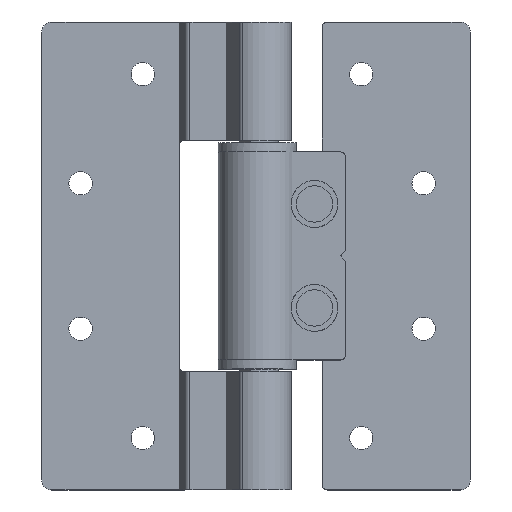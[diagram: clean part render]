
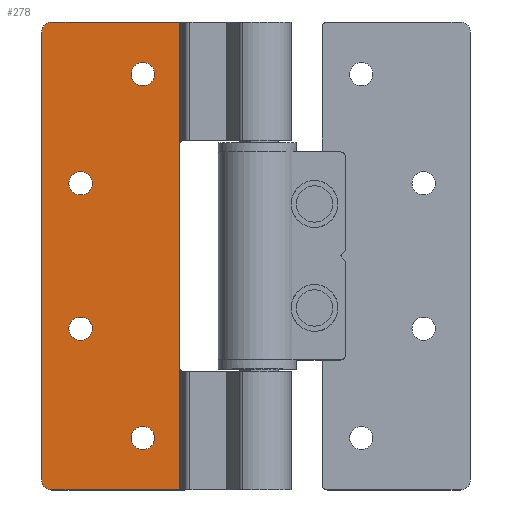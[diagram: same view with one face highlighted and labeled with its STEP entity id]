
A CAD part, top view. The second image highlights one B-rep face of the part: STEP entity #278.
In plain terms, the highlighted planar face has unit normal (0, 0, 1).
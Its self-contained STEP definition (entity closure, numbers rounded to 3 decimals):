
#278 = ADVANCED_FACE( '', ( #553, #554, #555, #556, #557 ), #558, .F. );
#553 = FACE_BOUND( '', #865, .T. );
#554 = FACE_BOUND( '', #866, .T. );
#555 = FACE_BOUND( '', #867, .T. );
#556 = FACE_BOUND( '', #868, .T. );
#557 = FACE_OUTER_BOUND( '', #869, .T. );
#558 = PLANE( '', #870 );
#865 = EDGE_LOOP( '', ( #1876 ) );
#866 = EDGE_LOOP( '', ( #1877 ) );
#867 = EDGE_LOOP( '', ( #1878 ) );
#868 = EDGE_LOOP( '', ( #1879 ) );
#869 = EDGE_LOOP( '', ( #1880, #1881, #1882, #1883, #1884, #1885, #1886, #1887 ) );
#870 = AXIS2_PLACEMENT_3D( '', #1888, #1889, #1890 );
#1876 = ORIENTED_EDGE( '', *, *, #2430, .T. );
#1877 = ORIENTED_EDGE( '', *, *, #2431, .T. );
#1878 = ORIENTED_EDGE( '', *, *, #2432, .T. );
#1879 = ORIENTED_EDGE( '', *, *, #2433, .T. );
#1880 = ORIENTED_EDGE( '', *, *, #2404, .F. );
#1881 = ORIENTED_EDGE( '', *, *, #2402, .T. );
#1882 = ORIENTED_EDGE( '', *, *, #2434, .T. );
#1883 = ORIENTED_EDGE( '', *, *, #2435, .T. );
#1884 = ORIENTED_EDGE( '', *, *, #2428, .T. );
#1885 = ORIENTED_EDGE( '', *, *, #2436, .F. );
#1886 = ORIENTED_EDGE( '', *, *, #2391, .F. );
#1887 = ORIENTED_EDGE( '', *, *, #2437, .F. );
#1888 = CARTESIAN_POINT( '', ( -41.5, 45., -7. ) );
#1889 = DIRECTION( '', ( 0., 0., -1. ) );
#1890 = DIRECTION( '', ( -1., 0., 0. ) );
#2391 = EDGE_CURVE( '', #2968, #2963, #2972, .T. );
#2402 = EDGE_CURVE( '', #2991, #2989, #2992, .F. );
#2404 = EDGE_CURVE( '', #2991, #2994, #2995, .T. );
#2428 = EDGE_CURVE( '', #3014, #3038, #3040, .T. );
#2430 = EDGE_CURVE( '', #3042, #3042, #3043, .T. );
#2431 = EDGE_CURVE( '', #3044, #3044, #3045, .T. );
#2432 = EDGE_CURVE( '', #3046, #3046, #3047, .T. );
#2433 = EDGE_CURVE( '', #3048, #3048, #3049, .T. );
#2434 = EDGE_CURVE( '', #2989, #3050, #3051, .T. );
#2435 = EDGE_CURVE( '', #3050, #3014, #3052, .F. );
#2436 = EDGE_CURVE( '', #2963, #3038, #3053, .T. );
#2437 = EDGE_CURVE( '', #2994, #2968, #3054, .T. );
#2963 = VERTEX_POINT( '', #3816 );
#2968 = VERTEX_POINT( '', #3825 );
#2972 = LINE( '', #3831, #3832 );
#2989 = VERTEX_POINT( '', #3855 );
#2991 = VERTEX_POINT( '', #3858 );
#2992 = CIRCLE( '', #3859, 2. );
#2994 = VERTEX_POINT( '', #3862 );
#2995 = LINE( '', #3863, #3864 );
#3014 = VERTEX_POINT( '', #3889 );
#3038 = VERTEX_POINT( '', #3920 );
#3040 = LINE( '', #3923, #3924 );
#3042 = VERTEX_POINT( '', #3927 );
#3043 = CIRCLE( '', #3928, 2.25 );
#3044 = VERTEX_POINT( '', #3929 );
#3045 = CIRCLE( '', #3930, 2.25 );
#3046 = VERTEX_POINT( '', #3931 );
#3047 = CIRCLE( '', #3932, 2.25 );
#3048 = VERTEX_POINT( '', #3933 );
#3049 = CIRCLE( '', #3934, 2.25 );
#3050 = VERTEX_POINT( '', #3935 );
#3051 = LINE( '', #3936, #3937 );
#3052 = CIRCLE( '', #3938, 2. );
#3053 = LINE( '', #3939, #3940 );
#3054 = LINE( '', #3941, #3942 );
#3816 = CARTESIAN_POINT( '', ( -15., -21.25, -7. ) );
#3825 = CARTESIAN_POINT( '', ( -15., 21.25, -7. ) );
#3831 = CARTESIAN_POINT( '', ( -15., 45., -7. ) );
#3832 = VECTOR( '', #4471, 1000. );
#3855 = CARTESIAN_POINT( '', ( -41.5, 43., -7. ) );
#3858 = CARTESIAN_POINT( '', ( -39.5, 45., -7. ) );
#3859 = AXIS2_PLACEMENT_3D( '', #4488, #4489, #4490 );
#3862 = CARTESIAN_POINT( '', ( -15., 45., -7. ) );
#3863 = CARTESIAN_POINT( '', ( -41.5, 45., -7. ) );
#3864 = VECTOR( '', #4492, 1000. );
#3889 = CARTESIAN_POINT( '', ( -39.5, -45., -7. ) );
#3920 = CARTESIAN_POINT( '', ( -15., -45., -7. ) );
#3923 = CARTESIAN_POINT( '', ( -41.5, -45., -7. ) );
#3924 = VECTOR( '', #4534, 1000. );
#3927 = CARTESIAN_POINT( '', ( -36.25, -14., -7. ) );
#3928 = AXIS2_PLACEMENT_3D( '', #4536, #4537, #4538 );
#3929 = CARTESIAN_POINT( '', ( -36.25, 14., -7. ) );
#3930 = AXIS2_PLACEMENT_3D( '', #4539, #4540, #4541 );
#3931 = CARTESIAN_POINT( '', ( -24.25, -35., -7. ) );
#3932 = AXIS2_PLACEMENT_3D( '', #4542, #4543, #4544 );
#3933 = CARTESIAN_POINT( '', ( -24.25, 35., -7. ) );
#3934 = AXIS2_PLACEMENT_3D( '', #4545, #4546, #4547 );
#3935 = CARTESIAN_POINT( '', ( -41.5, -43., -7. ) );
#3936 = CARTESIAN_POINT( '', ( -41.5, 45., -7. ) );
#3937 = VECTOR( '', #4548, 1000. );
#3938 = AXIS2_PLACEMENT_3D( '', #4549, #4550, #4551 );
#3939 = CARTESIAN_POINT( '', ( -15., 45., -7. ) );
#3940 = VECTOR( '', #4552, 1000. );
#3941 = CARTESIAN_POINT( '', ( -15., 45., -7. ) );
#3942 = VECTOR( '', #4553, 1000. );
#4471 = DIRECTION( '', ( 0., -1., 0. ) );
#4488 = CARTESIAN_POINT( '', ( -39.5, 43., -7. ) );
#4489 = DIRECTION( '', ( 0., 0., -1. ) );
#4490 = DIRECTION( '', ( -1., 0., 0. ) );
#4492 = DIRECTION( '', ( 1., 0., 0. ) );
#4534 = DIRECTION( '', ( 1., 0., 0. ) );
#4536 = CARTESIAN_POINT( '', ( -34., -14., -7. ) );
#4537 = DIRECTION( '', ( 0., 0., -1. ) );
#4538 = DIRECTION( '', ( -1., 0., 0. ) );
#4539 = CARTESIAN_POINT( '', ( -34., 14., -7. ) );
#4540 = DIRECTION( '', ( 0., 0., -1. ) );
#4541 = DIRECTION( '', ( -1., 0., 0. ) );
#4542 = CARTESIAN_POINT( '', ( -22., -35., -7. ) );
#4543 = DIRECTION( '', ( 0., 0., -1. ) );
#4544 = DIRECTION( '', ( -1., 0., 0. ) );
#4545 = CARTESIAN_POINT( '', ( -22., 35., -7. ) );
#4546 = DIRECTION( '', ( 0., 0., -1. ) );
#4547 = DIRECTION( '', ( -1., 0., 0. ) );
#4548 = DIRECTION( '', ( 0., -1., 0. ) );
#4549 = CARTESIAN_POINT( '', ( -39.5, -43., -7. ) );
#4550 = DIRECTION( '', ( 0., 0., -1. ) );
#4551 = DIRECTION( '', ( -1., 0., 0. ) );
#4552 = DIRECTION( '', ( 0., -1., 0. ) );
#4553 = DIRECTION( '', ( 0., -1., 0. ) );
